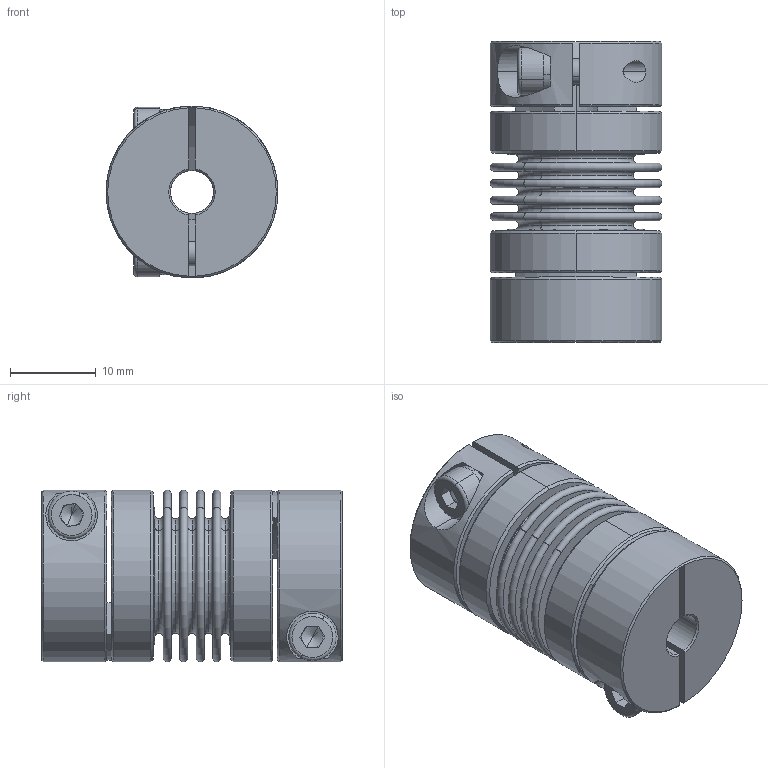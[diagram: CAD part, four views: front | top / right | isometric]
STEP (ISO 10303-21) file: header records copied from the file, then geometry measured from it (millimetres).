
FILE_DESCRIPTION (( 'STEP AP203' ), '1' );
FILE_NAME ('LB-B-D20L34-5-8.STEP', '2021-11-04T01:39:36', ( '' ), ( '' ), 'SwSTEP 2.0', 'SolidWorks 2018', '' );
FILE_SCHEMA (( 'CONFIG_CONTROL_DESIGN' ));
Length unit declared in the file: millimetre
Products named in the file (2): LB-B-D20L34-5-8; 零件4^LB-B-D20L34 波纹管联轴器-组装体
Assembly tree (1 placements, depth 2):
  LB-B-D20L34-5-8
    零件4^LB-B-D20L34 波纹管联轴器-组装体
Bounding box: 20 x 35 x 20 mm (x, y, z)
Volume: 5990.2 mm3; surface area: 9535.8 mm2
Topology: 1 solids, 1 shells, 246 faces, 572 edges, 354 vertices
Faces by surface type: plane 83, torus 68, cylinder 61, cone 34
Entity records: 7500 total; most frequent: CARTESIAN_POINT 1478, DIRECTION 1376, ORIENTED_EDGE 1136, AXIS2_PLACEMENT_3D 604, EDGE_CURVE 568, VERTEX_POINT 354, CIRCLE 354, EDGE_LOOP 288
